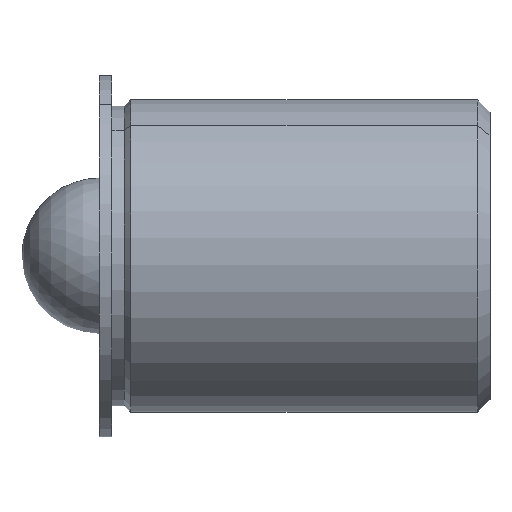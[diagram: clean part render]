
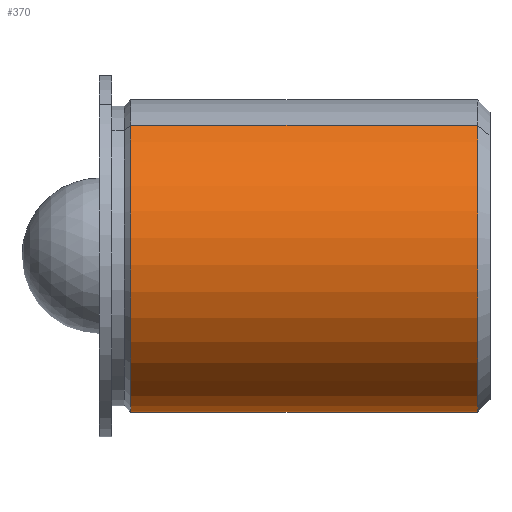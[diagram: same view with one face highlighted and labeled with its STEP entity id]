
A CAD part, front view. The second image highlights one B-rep face of the part: STEP entity #370.
In plain terms, the highlighted cylindrical face has radius 3.181 mm (diameter 6.363 mm), a partial arc.
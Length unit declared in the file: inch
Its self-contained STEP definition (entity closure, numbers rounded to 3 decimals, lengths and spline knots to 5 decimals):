
#79 = CYLINDRICAL_SURFACE ( 'NONE', #434, 0.12525 ) ;
#88 = DIRECTION ( 'NONE',  ( -1., 0., 0. ) ) ;
#122 = ORIENTED_EDGE ( 'NONE', *, *, #1148, .F. ) ;
#162 = DIRECTION ( 'NONE',  ( -1., 0., 0. ) ) ;
#171 = CARTESIAN_POINT ( 'NONE',  ( -0.04378, 0.24067, 0.30122 ) ) ;
#201 = CARTESIAN_POINT ( 'NONE',  ( -0.04378, 0.30933, 0.19646 ) ) ;
#285 = LINE ( 'NONE', #1124, #572 ) ;
#329 = CARTESIAN_POINT ( 'NONE',  ( 0.23422, 0.30933, 0.19646 ) ) ;
#370 = ADVANCED_FACE ( 'NONE', ( #991 ), #79, .T. ) ;
#390 = EDGE_CURVE ( 'NONE', #992, #1399, #770, .T. ) ;
#399 = DIRECTION ( 'NONE',  ( -1., 0., 0. ) ) ;
#423 = ORIENTED_EDGE ( 'NONE', *, *, #390, .F. ) ;
#434 = AXIS2_PLACEMENT_3D ( 'NONE', #1307, #622, #796 ) ;
#445 = VERTEX_POINT ( 'NONE', #329 ) ;
#450 = LINE ( 'NONE', #1542, #1086 ) ;
#492 = EDGE_CURVE ( 'NONE', #445, #988, #1351, .T. ) ;
#533 = DIRECTION ( 'NONE',  ( 0., 0.548, -0.836 ) ) ;
#565 = ORIENTED_EDGE ( 'NONE', *, *, #492, .T. ) ;
#572 = VECTOR ( 'NONE', #88, 39.37008 ) ;
#611 = DIRECTION ( 'NONE',  ( -1., 0., 0. ) ) ;
#622 = DIRECTION ( 'NONE',  ( -1., 0., 0. ) ) ;
#770 = CIRCLE ( 'NONE', #1291, 0.12525 ) ;
#796 = DIRECTION ( 'NONE',  ( 0., 0.548, -0.836 ) ) ;
#806 = EDGE_LOOP ( 'NONE', ( #565, #1412, #423, #122 ) ) ;
#960 = DIRECTION ( 'NONE',  ( 0., 0.548, -0.836 ) ) ;
#988 = VERTEX_POINT ( 'NONE', #1348 ) ;
#991 = FACE_OUTER_BOUND ( 'NONE', #806, .T. ) ;
#992 = VERTEX_POINT ( 'NONE', #201 ) ;
#1033 = CARTESIAN_POINT ( 'NONE',  ( -0.04378, 0.17202, 0.40598 ) ) ;
#1086 = VECTOR ( 'NONE', #611, 39.37008 ) ;
#1124 = CARTESIAN_POINT ( 'NONE',  ( -0.06878, 0.30933, 0.19646 ) ) ;
#1148 = EDGE_CURVE ( 'NONE', #445, #992, #285, .T. ) ;
#1171 = AXIS2_PLACEMENT_3D ( 'NONE', #1562, #399, #533 ) ;
#1291 = AXIS2_PLACEMENT_3D ( 'NONE', #171, #162, #960 ) ;
#1307 = CARTESIAN_POINT ( 'NONE',  ( -0.06878, 0.24067, 0.30122 ) ) ;
#1308 = EDGE_CURVE ( 'NONE', #988, #1399, #450, .T. ) ;
#1348 = CARTESIAN_POINT ( 'NONE',  ( 0.23422, 0.17202, 0.40598 ) ) ;
#1351 = CIRCLE ( 'NONE', #1171, 0.12525 ) ;
#1399 = VERTEX_POINT ( 'NONE', #1033 ) ;
#1412 = ORIENTED_EDGE ( 'NONE', *, *, #1308, .T. ) ;
#1542 = CARTESIAN_POINT ( 'NONE',  ( -0.06878, 0.17202, 0.40598 ) ) ;
#1562 = CARTESIAN_POINT ( 'NONE',  ( 0.23422, 0.24067, 0.30122 ) ) ;
